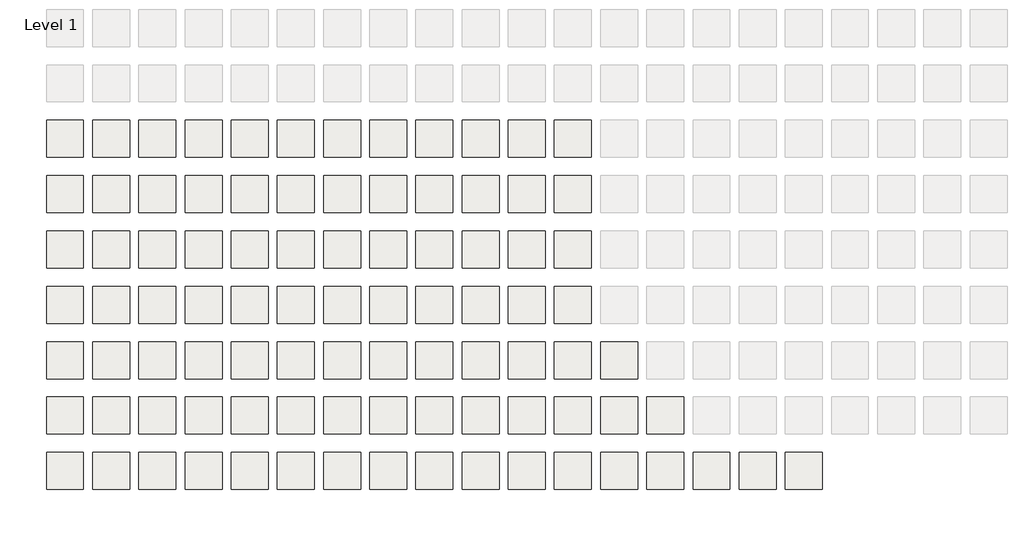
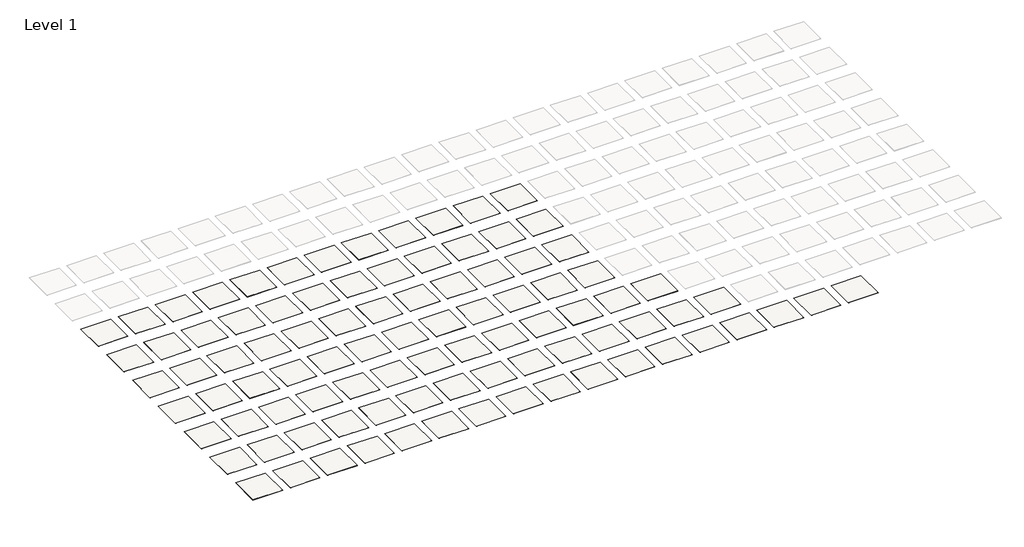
# One storey, part 1 of 2: 92 slabs.
"""IFC4 building model written with IfcOpenShell, lengths in millimetres."""

from ifc_helpers import new_model, si_unit, frame, origin, place, context, project, spatial, polyline, outline, extrude, element, save

model = new_model("IFC4")

# Units and contexts
model_context = context("Model", 3, world=origin())
ifc_project = project(units=[si_unit("LENGTHUNIT", "METRE", prefix="MILLI")], contexts=[model_context])

# Site, building, storey
site = spatial("IfcSite", under=ifc_project)
building = spatial("IfcBuilding", under=site)
storey = spatial("IfcBuildingStorey", under=building, Name="Level 1", Elevation=0.0)

# Slabs
placement = place(None, origin())
element("IfcSlab", 1, ObjectType="Tandus_03164", at=placement, inside=storey, context=model_context, shape_type="SweptSolid", body=[
    extrude(outline(polyline([(-34034.921095, -76739.4599186), (-41350.121095, -76739.4599186), (-41350.121095, -69424.2599186), (-34034.921095, -69424.2599186), (-34034.921095, -76739.4599186)])), frame((0.0, 0.0, -6.35), z_axis=(0.0, 0.0, 1.0), x_axis=(1.0, 0.0, 0.0)), (0.0, 0.0, 1.0), 6.35),
])
element("IfcSlab", 2, ObjectType="Tandus_01433", at=placement, inside=storey, context=model_context, shape_type="SweptSolid", body=[
    extrude(outline(polyline([(-24890.921095, -76739.4599186), (-32206.121095, -76739.4599186), (-32206.121095, -69424.2599186), (-24890.921095, -69424.2599186), (-24890.921095, -76739.4599186)])), frame((0.0, 0.0, -6.35), z_axis=(0.0, 0.0, 1.0), x_axis=(1.0, 0.0, 0.0)), (0.0, 0.0, 1.0), 6.35),
])
element("IfcSlab", 3, ObjectType="Tandus_03889", at=placement, inside=storey, context=model_context, shape_type="SweptSolid", body=[
    extrude(outline(polyline([(-15746.921095, -76739.4599186), (-23062.121095, -76739.4599186), (-23062.121095, -69424.2599186), (-15746.921095, -69424.2599186), (-15746.921095, -76739.4599186)])), frame((0.0, 0.0, -6.35), z_axis=(0.0, 0.0, 1.0), x_axis=(1.0, 0.0, 0.0)), (0.0, 0.0, 1.0), 6.35),
])
element("IfcSlab", 4, ObjectType="Tandus_03937", at=placement, inside=storey, context=model_context, shape_type="SweptSolid", body=[
    extrude(outline(polyline([(66549.078905, -65766.6599186), (59233.878905, -65766.6599186), (59233.878905, -58451.4599186), (66549.078905, -58451.4599186), (66549.078905, -65766.6599186)])), frame((0.0, 0.0, -6.35), z_axis=(0.0, 0.0, 1.0), x_axis=(1.0, 0.0, 0.0)), (0.0, 0.0, 1.0), 6.35),
])
element("IfcSlab", 5, ObjectType="Tandus_04313", at=placement, inside=storey, context=model_context, shape_type="SweptSolid", body=[
    extrude(outline(polyline([(-34034.921095, -10902.6599186), (-41350.121095, -10902.6599186), (-41350.121095, -3587.4599186), (-34034.921095, -3587.4599186), (-34034.921095, -10902.6599186)])), frame((0.0, 0.0, -6.35), z_axis=(0.0, 0.0, 1.0), x_axis=(1.0, 0.0, 0.0)), (0.0, 0.0, 1.0), 6.35),
])
element("IfcSlab", 6, ObjectType="Tandus_05849", at=placement, inside=storey, context=model_context, shape_type="SweptSolid", body=[
    extrude(outline(polyline([(-24890.921095, -10902.6599186), (-32206.121095, -10902.6599186), (-32206.121095, -3587.4599186), (-24890.921095, -3587.4599186), (-24890.921095, -10902.6599186)])), frame((0.0, 0.0, -6.35), z_axis=(0.0, 0.0, 1.0), x_axis=(1.0, 0.0, 0.0)), (0.0, 0.0, 1.0), 6.35),
])
element("IfcSlab", 7, ObjectType="Tandus_04122", at=placement, inside=storey, context=model_context, shape_type="SweptSolid", body=[
    extrude(outline(polyline([(-15746.921095, -10902.6599186), (-23062.121095, -10902.6599186), (-23062.121095, -3587.4599186), (-15746.921095, -3587.4599186), (-15746.921095, -10902.6599186)])), frame((0.0, 0.0, -6.35), z_axis=(0.0, 0.0, 1.0), x_axis=(1.0, 0.0, 0.0)), (0.0, 0.0, 1.0), 6.35),
])
element("IfcSlab", 8, ObjectType="Tandus_04051", at=placement, inside=storey, context=model_context, shape_type="SweptSolid", body=[
    extrude(outline(polyline([(-6602.921095, -10902.6599186), (-13918.121095, -10902.6599186), (-13918.121095, -3587.4599186), (-6602.921095, -3587.4599186), (-6602.921095, -10902.6599186)])), frame((0.0, 0.0, -6.35), z_axis=(0.0, 0.0, 1.0), x_axis=(1.0, 0.0, 0.0)), (0.0, 0.0, 1.0), 6.35),
])
element("IfcSlab", 9, ObjectType="Tandus_04334", at=placement, inside=storey, context=model_context, shape_type="SweptSolid", body=[
    extrude(outline(polyline([(11685.078905, -10902.6599186), (4369.878905, -10902.6599186), (4369.878905, -3587.4599186), (11685.078905, -3587.4599186), (11685.078905, -10902.6599186)])), frame((0.0, 0.0, -6.35), z_axis=(0.0, 0.0, 1.0), x_axis=(1.0, 0.0, 0.0)), (0.0, 0.0, 1.0), 6.35),
])
element("IfcSlab", 10, ObjectType="Tandus_04078", at=placement, inside=storey, context=model_context, shape_type="SweptSolid", body=[
    extrude(outline(polyline([(20829.078905, -10902.6599186), (13513.878905, -10902.6599186), (13513.878905, -3587.4599186), (20829.078905, -3587.4599186), (20829.078905, -10902.6599186)])), frame((0.0, 0.0, -6.35), z_axis=(0.0, 0.0, 1.0), x_axis=(1.0, 0.0, 0.0)), (0.0, 0.0, 1.0), 6.35),
])
element("IfcSlab", 11, ObjectType="Tandus_03297", at=placement, inside=storey, context=model_context, shape_type="SweptSolid", body=[
    extrude(outline(polyline([(29973.078905, -10902.6599186), (22657.878905, -10902.6599186), (22657.878905, -3587.4599186), (29973.078905, -3587.4599186), (29973.078905, -10902.6599186)])), frame((0.0, 0.0, -6.35), z_axis=(0.0, 0.0, 1.0), x_axis=(1.0, 0.0, 0.0)), (0.0, 0.0, 1.0), 6.35),
])
element("IfcSlab", 12, ObjectType="Tandus_04072", at=placement, inside=storey, context=model_context, shape_type="SweptSolid", body=[
    extrude(outline(polyline([(39117.078905, -10902.6599186), (31801.878905, -10902.6599186), (31801.878905, -3587.4599186), (39117.078905, -3587.4599186), (39117.078905, -10902.6599186)])), frame((0.0, 0.0, -6.35), z_axis=(0.0, 0.0, 1.0), x_axis=(1.0, 0.0, 0.0)), (0.0, 0.0, 1.0), 6.35),
])
element("IfcSlab", 13, ObjectType="Tandus_03223", at=placement, inside=storey, context=model_context, shape_type="SweptSolid", body=[
    extrude(outline(polyline([(48261.078905, -10902.6599186), (40945.878905, -10902.6599186), (40945.878905, -3587.4599186), (48261.078905, -3587.4599186), (48261.078905, -10902.6599186)])), frame((0.0, 0.0, -6.35), z_axis=(0.0, 0.0, 1.0), x_axis=(1.0, 0.0, 0.0)), (0.0, 0.0, 1.0), 6.35),
])
element("IfcSlab", 14, ObjectType="Tandus_04222", at=placement, inside=storey, context=model_context, shape_type="SweptSolid", body=[
    extrude(outline(polyline([(57405.078905, -10902.6599186), (50089.878905, -10902.6599186), (50089.878905, -3587.4599186), (57405.078905, -3587.4599186), (57405.078905, -10902.6599186)])), frame((0.0, 0.0, -6.35), z_axis=(0.0, 0.0, 1.0), x_axis=(1.0, 0.0, 0.0)), (0.0, 0.0, 1.0), 6.35),
])
element("IfcSlab", 15, ObjectType="Tandus_05112", at=placement, inside=storey, context=model_context, shape_type="SweptSolid", body=[
    extrude(outline(polyline([(-34034.921095, -21875.4599186), (-41350.121095, -21875.4599186), (-41350.121095, -14560.2599186), (-34034.921095, -14560.2599186), (-34034.921095, -21875.4599186)])), frame((0.0, 0.0, -6.35), z_axis=(0.0, 0.0, 1.0), x_axis=(1.0, 0.0, 0.0)), (0.0, 0.0, 1.0), 6.35),
])
element("IfcSlab", 16, ObjectType="Tandus_03670", at=placement, inside=storey, context=model_context, shape_type="SweptSolid", body=[
    extrude(outline(polyline([(-24890.921095, -21875.4599186), (-32206.121095, -21875.4599186), (-32206.121095, -14560.2599186), (-24890.921095, -14560.2599186), (-24890.921095, -21875.4599186)])), frame((0.0, 0.0, -6.35), z_axis=(0.0, 0.0, 1.0), x_axis=(1.0, 0.0, 0.0)), (0.0, 0.0, 1.0), 6.35),
])
element("IfcSlab", 17, ObjectType="Tandus_03713", at=placement, inside=storey, context=model_context, shape_type="SweptSolid", body=[
    extrude(outline(polyline([(-15746.921095, -21875.4599186), (-23062.121095, -21875.4599186), (-23062.121095, -14560.2599186), (-15746.921095, -14560.2599186), (-15746.921095, -21875.4599186)])), frame((0.0, 0.0, -6.35), z_axis=(0.0, 0.0, 1.0), x_axis=(1.0, 0.0, 0.0)), (0.0, 0.0, 1.0), 6.35),
])
element("IfcSlab", 18, ObjectType="Tandus_04085", at=placement, inside=storey, context=model_context, shape_type="SweptSolid", body=[
    extrude(outline(polyline([(-6602.921095, -21875.4599186), (-13918.121095, -21875.4599186), (-13918.121095, -14560.2599186), (-6602.921095, -14560.2599186), (-6602.921095, -21875.4599186)])), frame((0.0, 0.0, -6.35), z_axis=(0.0, 0.0, 1.0), x_axis=(1.0, 0.0, 0.0)), (0.0, 0.0, 1.0), 6.35),
])
element("IfcSlab", 19, ObjectType="Tandus_03589", at=placement, inside=storey, context=model_context, shape_type="SweptSolid", body=[
    extrude(outline(polyline([(2541.078905, -21875.4599186), (-4774.121095, -21875.4599186), (-4774.121095, -14560.2599186), (2541.078905, -14560.2599186), (2541.078905, -21875.4599186)])), frame((0.0, 0.0, -6.35), z_axis=(0.0, 0.0, 1.0), x_axis=(1.0, 0.0, 0.0)), (0.0, 0.0, 1.0), 6.35),
])
element("IfcSlab", 20, ObjectType="Tandus_03936", at=placement, inside=storey, context=model_context, shape_type="SweptSolid", body=[
    extrude(outline(polyline([(11685.078905, -21875.4599186), (4369.878905, -21875.4599186), (4369.878905, -14560.2599186), (11685.078905, -14560.2599186), (11685.078905, -21875.4599186)])), frame((0.0, 0.0, -6.35), z_axis=(0.0, 0.0, 1.0), x_axis=(1.0, 0.0, 0.0)), (0.0, 0.0, 1.0), 6.35),
])
element("IfcSlab", 21, ObjectType="Tandus_04219", at=placement, inside=storey, context=model_context, shape_type="SweptSolid", body=[
    extrude(outline(polyline([(20829.078905, -21875.4599186), (13513.878905, -21875.4599186), (13513.878905, -14560.2599186), (20829.078905, -14560.2599186), (20829.078905, -21875.4599186)])), frame((0.0, 0.0, -6.35), z_axis=(0.0, 0.0, 1.0), x_axis=(1.0, 0.0, 0.0)), (0.0, 0.0, 1.0), 6.35),
])
element("IfcSlab", 22, ObjectType="Tandus_03295", at=placement, inside=storey, context=model_context, shape_type="SweptSolid", body=[
    extrude(outline(polyline([(29973.078905, -21875.4599186), (22657.878905, -21875.4599186), (22657.878905, -14560.2599186), (29973.078905, -14560.2599186), (29973.078905, -21875.4599186)])), frame((0.0, 0.0, -6.35), z_axis=(0.0, 0.0, 1.0), x_axis=(1.0, 0.0, 0.0)), (0.0, 0.0, 1.0), 6.35),
])
element("IfcSlab", 23, ObjectType="Tandus_05165", at=placement, inside=storey, context=model_context, shape_type="SweptSolid", body=[
    extrude(outline(polyline([(39117.078905, -21875.4599186), (31801.878905, -21875.4599186), (31801.878905, -14560.2599186), (39117.078905, -14560.2599186), (39117.078905, -21875.4599186)])), frame((0.0, 0.0, -6.35), z_axis=(0.0, 0.0, 1.0), x_axis=(1.0, 0.0, 0.0)), (0.0, 0.0, 1.0), 6.35),
])
element("IfcSlab", 24, ObjectType="Tandus_02888", at=placement, inside=storey, context=model_context, shape_type="SweptSolid", body=[
    extrude(outline(polyline([(48261.078905, -21875.4599186), (40945.878905, -21875.4599186), (40945.878905, -14560.2599186), (48261.078905, -14560.2599186), (48261.078905, -21875.4599186)])), frame((0.0, 0.0, -6.35), z_axis=(0.0, 0.0, 1.0), x_axis=(1.0, 0.0, 0.0)), (0.0, 0.0, 1.0), 6.35),
])
element("IfcSlab", 25, ObjectType="Tandus_03707", at=placement, inside=storey, context=model_context, shape_type="SweptSolid", body=[
    extrude(outline(polyline([(57405.078905, -21875.4599186), (50089.878905, -21875.4599186), (50089.878905, -14560.2599186), (57405.078905, -14560.2599186), (57405.078905, -21875.4599186)])), frame((0.0, 0.0, -6.35), z_axis=(0.0, 0.0, 1.0), x_axis=(1.0, 0.0, 0.0)), (0.0, 0.0, 1.0), 6.35),
])
element("IfcSlab", 26, ObjectType="Tandus_04338", at=placement, inside=storey, context=model_context, shape_type="SweptSolid", body=[
    extrude(outline(polyline([(66549.078905, -21875.4599186), (59233.878905, -21875.4599186), (59233.878905, -14560.2599186), (66549.078905, -14560.2599186), (66549.078905, -21875.4599186)])), frame((0.0, 0.0, -6.35), z_axis=(0.0, 0.0, 1.0), x_axis=(1.0, 0.0, 0.0)), (0.0, 0.0, 1.0), 6.35),
])
element("IfcSlab", 27, ObjectType="Tandus_03580", at=placement, inside=storey, context=model_context, shape_type="SweptSolid", body=[
    extrude(outline(polyline([(-34034.921095, -32848.2599186), (-41350.121095, -32848.2599186), (-41350.121095, -25533.0599186), (-34034.921095, -25533.0599186), (-34034.921095, -32848.2599186)])), frame((0.0, 0.0, -6.35), z_axis=(0.0, 0.0, 1.0), x_axis=(1.0, 0.0, 0.0)), (0.0, 0.0, 1.0), 6.35),
])
element("IfcSlab", 28, ObjectType="Tandus_03353", at=placement, inside=storey, context=model_context, shape_type="SweptSolid", body=[
    extrude(outline(polyline([(-24890.921095, -32848.2599186), (-32206.121095, -32848.2599186), (-32206.121095, -25533.0599186), (-24890.921095, -25533.0599186), (-24890.921095, -32848.2599186)])), frame((0.0, 0.0, -6.35), z_axis=(0.0, 0.0, 1.0), x_axis=(1.0, 0.0, 0.0)), (0.0, 0.0, 1.0), 6.35),
])
element("IfcSlab", 29, ObjectType="Tandus_01880", at=placement, inside=storey, context=model_context, shape_type="SweptSolid", body=[
    extrude(outline(polyline([(2541.078905, -10902.6599186), (-4774.121095, -10902.6599186), (-4774.121095, -3587.4599186), (2541.078905, -3587.4599186), (2541.078905, -10902.6599186)])), frame((0.0, 0.0, -6.35), z_axis=(0.0, 0.0, 1.0), x_axis=(1.0, 0.0, 0.0)), (0.0, 0.0, 1.0), 6.35),
])
element("IfcSlab", 30, ObjectType="Tandus_02723", at=placement, inside=storey, context=model_context, shape_type="SweptSolid", body=[
    extrude(outline(polyline([(66549.078905, -10902.6599186), (59233.878905, -10902.6599186), (59233.878905, -3587.4599186), (66549.078905, -3587.4599186), (66549.078905, -10902.6599186)])), frame((0.0, 0.0, -6.35), z_axis=(0.0, 0.0, 1.0), x_axis=(1.0, 0.0, 0.0)), (0.0, 0.0, 1.0), 6.35),
])
element("IfcSlab", 31, ObjectType="Tandus_51050", at=placement, inside=storey, context=model_context, shape_type="SweptSolid", body=[
    extrude(outline(polyline([(-15746.921095, -32848.2599186), (-23062.121095, -32848.2599186), (-23062.121095, -25533.0599186), (-15746.921095, -25533.0599186), (-15746.921095, -32848.2599186)])), frame((0.0, 0.0, -6.35), z_axis=(0.0, 0.0, 1.0), x_axis=(1.0, 0.0, 0.0)), (0.0, 0.0, 1.0), 6.35),
])
element("IfcSlab", 32, ObjectType="Tandus_60124", at=placement, inside=storey, context=model_context, shape_type="SweptSolid", body=[
    extrude(outline(polyline([(-6602.921095, -32848.2599186), (-13918.121095, -32848.2599186), (-13918.121095, -25533.0599186), (-6602.921095, -25533.0599186), (-6602.921095, -32848.2599186)])), frame((0.0, 0.0, -6.35), z_axis=(0.0, 0.0, 1.0), x_axis=(1.0, 0.0, 0.0)), (0.0, 0.0, 1.0), 6.35),
])
element("IfcSlab", 33, ObjectType="Tandus_30397", at=placement, inside=storey, context=model_context, shape_type="SweptSolid", body=[
    extrude(outline(polyline([(2541.078905, -32848.2599186), (-4774.121095, -32848.2599186), (-4774.121095, -25533.0599186), (2541.078905, -25533.0599186), (2541.078905, -32848.2599186)])), frame((0.0, 0.0, -6.35), z_axis=(0.0, 0.0, 1.0), x_axis=(1.0, 0.0, 0.0)), (0.0, 0.0, 1.0), 6.35),
])
element("IfcSlab", 34, ObjectType="Tandus_40024", at=placement, inside=storey, context=model_context, shape_type="SweptSolid", body=[
    extrude(outline(polyline([(11685.078905, -32848.2599186), (4369.878905, -32848.2599186), (4369.878905, -25533.0599186), (11685.078905, -25533.0599186), (11685.078905, -32848.2599186)])), frame((0.0, 0.0, -6.35), z_axis=(0.0, 0.0, 1.0), x_axis=(1.0, 0.0, 0.0)), (0.0, 0.0, 1.0), 6.35),
])
element("IfcSlab", 35, ObjectType="Tandus_40030", at=placement, inside=storey, context=model_context, shape_type="SweptSolid", body=[
    extrude(outline(polyline([(20829.078905, -32848.2599186), (13513.878905, -32848.2599186), (13513.878905, -25533.0599186), (20829.078905, -25533.0599186), (20829.078905, -32848.2599186)])), frame((0.0, 0.0, -6.35), z_axis=(0.0, 0.0, 1.0), x_axis=(1.0, 0.0, 0.0)), (0.0, 0.0, 1.0), 6.35),
])
element("IfcSlab", 36, ObjectType="Tandus_51080", at=placement, inside=storey, context=model_context, shape_type="SweptSolid", body=[
    extrude(outline(polyline([(29973.078905, -32848.2599186), (22657.878905, -32848.2599186), (22657.878905, -25533.0599186), (29973.078905, -25533.0599186), (29973.078905, -32848.2599186)])), frame((0.0, 0.0, -6.35), z_axis=(0.0, 0.0, 1.0), x_axis=(1.0, 0.0, 0.0)), (0.0, 0.0, 1.0), 6.35),
])
element("IfcSlab", 37, ObjectType="Tandus_60127", at=placement, inside=storey, context=model_context, shape_type="SweptSolid", body=[
    extrude(outline(polyline([(39117.078905, -32848.2599186), (31801.878905, -32848.2599186), (31801.878905, -25533.0599186), (39117.078905, -25533.0599186), (39117.078905, -32848.2599186)])), frame((0.0, 0.0, -6.35), z_axis=(0.0, 0.0, 1.0), x_axis=(1.0, 0.0, 0.0)), (0.0, 0.0, 1.0), 6.35),
])
element("IfcSlab", 38, ObjectType="Tandus_44047", at=placement, inside=storey, context=model_context, shape_type="SweptSolid", body=[
    extrude(outline(polyline([(48261.078905, -32848.2599186), (40945.878905, -32848.2599186), (40945.878905, -25533.0599186), (48261.078905, -25533.0599186), (48261.078905, -32848.2599186)])), frame((0.0, 0.0, -6.35), z_axis=(0.0, 0.0, 1.0), x_axis=(1.0, 0.0, 0.0)), (0.0, 0.0, 1.0), 6.35),
])
element("IfcSlab", 39, ObjectType="Tandus_44045", at=placement, inside=storey, context=model_context, shape_type="SweptSolid", body=[
    extrude(outline(polyline([(57405.078905, -32848.2599186), (50089.878905, -32848.2599186), (50089.878905, -25533.0599186), (57405.078905, -25533.0599186), (57405.078905, -32848.2599186)])), frame((0.0, 0.0, -6.35), z_axis=(0.0, 0.0, 1.0), x_axis=(1.0, 0.0, 0.0)), (0.0, 0.0, 1.0), 6.35),
])
element("IfcSlab", 40, ObjectType="Tandus_30399", at=placement, inside=storey, context=model_context, shape_type="SweptSolid", body=[
    extrude(outline(polyline([(66549.078905, -32848.2599186), (59233.878905, -32848.2599186), (59233.878905, -25533.0599186), (66549.078905, -25533.0599186), (66549.078905, -32848.2599186)])), frame((0.0, 0.0, -6.35), z_axis=(0.0, 0.0, 1.0), x_axis=(1.0, 0.0, 0.0)), (0.0, 0.0, 1.0), 6.35),
])
element("IfcSlab", 41, ObjectType="Tandus_44052", at=placement, inside=storey, context=model_context, shape_type="SweptSolid", body=[
    extrude(outline(polyline([(-34034.921095, -43821.0599186), (-41350.121095, -43821.0599186), (-41350.121095, -36505.8599186), (-34034.921095, -36505.8599186), (-34034.921095, -43821.0599186)])), frame((0.0, 0.0, -6.35), z_axis=(0.0, 0.0, 1.0), x_axis=(1.0, 0.0, 0.0)), (0.0, 0.0, 1.0), 6.35),
])
element("IfcSlab", 42, ObjectType="Tandus_40031", at=placement, inside=storey, context=model_context, shape_type="SweptSolid", body=[
    extrude(outline(polyline([(-24890.921095, -43821.0599186), (-32206.121095, -43821.0599186), (-32206.121095, -36505.8599186), (-24890.921095, -36505.8599186), (-24890.921095, -43821.0599186)])), frame((0.0, 0.0, -6.35), z_axis=(0.0, 0.0, 1.0), x_axis=(1.0, 0.0, 0.0)), (0.0, 0.0, 1.0), 6.35),
])
element("IfcSlab", 43, ObjectType="Tandus_40002", at=placement, inside=storey, context=model_context, shape_type="SweptSolid", body=[
    extrude(outline(polyline([(-15746.921095, -43821.0599186), (-23062.121095, -43821.0599186), (-23062.121095, -36505.8599186), (-15746.921095, -36505.8599186), (-15746.921095, -43821.0599186)])), frame((0.0, 0.0, -6.35), z_axis=(0.0, 0.0, 1.0), x_axis=(1.0, 0.0, 0.0)), (0.0, 0.0, 1.0), 6.35),
])
element("IfcSlab", 44, ObjectType="Tandus_60102", at=placement, inside=storey, context=model_context, shape_type="SweptSolid", body=[
    extrude(outline(polyline([(-6602.921095, -43821.0599186), (-13918.121095, -43821.0599186), (-13918.121095, -36505.8599186), (-6602.921095, -36505.8599186), (-6602.921095, -43821.0599186)])), frame((0.0, 0.0, -6.35), z_axis=(0.0, 0.0, 1.0), x_axis=(1.0, 0.0, 0.0)), (0.0, 0.0, 1.0), 6.35),
])
element("IfcSlab", 45, ObjectType="Tandus_44025", at=placement, inside=storey, context=model_context, shape_type="SweptSolid", body=[
    extrude(outline(polyline([(2541.078905, -43821.0599186), (-4774.121095, -43821.0599186), (-4774.121095, -36505.8599186), (2541.078905, -36505.8599186), (2541.078905, -43821.0599186)])), frame((0.0, 0.0, -6.35), z_axis=(0.0, 0.0, 1.0), x_axis=(1.0, 0.0, 0.0)), (0.0, 0.0, 1.0), 6.35),
])
element("IfcSlab", 46, ObjectType="Tandus_44040", at=placement, inside=storey, context=model_context, shape_type="SweptSolid", body=[
    extrude(outline(polyline([(11685.078905, -43821.0599186), (4369.878905, -43821.0599186), (4369.878905, -36505.8599186), (11685.078905, -36505.8599186), (11685.078905, -43821.0599186)])), frame((0.0, 0.0, -6.35), z_axis=(0.0, 0.0, 1.0), x_axis=(1.0, 0.0, 0.0)), (0.0, 0.0, 1.0), 6.35),
])
element("IfcSlab", 47, ObjectType="Tandus_44051", at=placement, inside=storey, context=model_context, shape_type="SweptSolid", body=[
    extrude(outline(polyline([(20829.078905, -43821.0599186), (13513.878905, -43821.0599186), (13513.878905, -36505.8599186), (20829.078905, -36505.8599186), (20829.078905, -43821.0599186)])), frame((0.0, 0.0, -6.35), z_axis=(0.0, 0.0, 1.0), x_axis=(1.0, 0.0, 0.0)), (0.0, 0.0, 1.0), 6.35),
])
element("IfcSlab", 48, ObjectType="Tandus_44032", at=placement, inside=storey, context=model_context, shape_type="SweptSolid", body=[
    extrude(outline(polyline([(29973.078905, -43821.0599186), (22657.878905, -43821.0599186), (22657.878905, -36505.8599186), (29973.078905, -36505.8599186), (29973.078905, -43821.0599186)])), frame((0.0, 0.0, -6.35), z_axis=(0.0, 0.0, 1.0), x_axis=(1.0, 0.0, 0.0)), (0.0, 0.0, 1.0), 6.35),
])
element("IfcSlab", 49, ObjectType="Tandus_40038", at=placement, inside=storey, context=model_context, shape_type="SweptSolid", body=[
    extrude(outline(polyline([(39117.078905, -43821.0599186), (31801.878905, -43821.0599186), (31801.878905, -36505.8599186), (39117.078905, -36505.8599186), (39117.078905, -43821.0599186)])), frame((0.0, 0.0, -6.35), z_axis=(0.0, 0.0, 1.0), x_axis=(1.0, 0.0, 0.0)), (0.0, 0.0, 1.0), 6.35),
])
element("IfcSlab", 50, ObjectType="Tandus_40022", at=placement, inside=storey, context=model_context, shape_type="SweptSolid", body=[
    extrude(outline(polyline([(48261.078905, -43821.0599186), (40945.878905, -43821.0599186), (40945.878905, -36505.8599186), (48261.078905, -36505.8599186), (48261.078905, -43821.0599186)])), frame((0.0, 0.0, -6.35), z_axis=(0.0, 0.0, 1.0), x_axis=(1.0, 0.0, 0.0)), (0.0, 0.0, 1.0), 6.35),
])
element("IfcSlab", 51, ObjectType="Tandus_44035", at=placement, inside=storey, context=model_context, shape_type="SweptSolid", body=[
    extrude(outline(polyline([(57405.078905, -43821.0599186), (50089.878905, -43821.0599186), (50089.878905, -36505.8599186), (57405.078905, -36505.8599186), (57405.078905, -43821.0599186)])), frame((0.0, 0.0, -6.35), z_axis=(0.0, 0.0, 1.0), x_axis=(1.0, 0.0, 0.0)), (0.0, 0.0, 1.0), 6.35),
])
element("IfcSlab", 52, ObjectType="Tandus_40003", at=placement, inside=storey, context=model_context, shape_type="SweptSolid", body=[
    extrude(outline(polyline([(66549.078905, -43821.0599186), (59233.878905, -43821.0599186), (59233.878905, -36505.8599186), (66549.078905, -36505.8599186), (66549.078905, -43821.0599186)])), frame((0.0, 0.0, -6.35), z_axis=(0.0, 0.0, 1.0), x_axis=(1.0, 0.0, 0.0)), (0.0, 0.0, 1.0), 6.35),
])
element("IfcSlab", 53, ObjectType="Tandus_03588", at=placement, inside=storey, context=model_context, shape_type="SweptSolid", body=[
    extrude(outline(polyline([(-34034.921095, -54793.8599186), (-41350.121095, -54793.8599186), (-41350.121095, -47478.6599186), (-34034.921095, -47478.6599186), (-34034.921095, -54793.8599186)])), frame((0.0, 0.0, -6.35), z_axis=(0.0, 0.0, 1.0), x_axis=(1.0, 0.0, 0.0)), (0.0, 0.0, 1.0), 6.35),
])
element("IfcSlab", 54, ObjectType="Tandus_40027", at=placement, inside=storey, context=model_context, shape_type="SweptSolid", body=[
    extrude(outline(polyline([(-24890.921095, -54793.8599186), (-32206.121095, -54793.8599186), (-32206.121095, -47478.6599186), (-24890.921095, -47478.6599186), (-24890.921095, -54793.8599186)])), frame((0.0, 0.0, -6.35), z_axis=(0.0, 0.0, 1.0), x_axis=(1.0, 0.0, 0.0)), (0.0, 0.0, 1.0), 6.35),
])
element("IfcSlab", 55, ObjectType="Tandus_40020", at=placement, inside=storey, context=model_context, shape_type="SweptSolid", body=[
    extrude(outline(polyline([(-15746.921095, -54793.8599186), (-23062.121095, -54793.8599186), (-23062.121095, -47478.6599186), (-15746.921095, -47478.6599186), (-15746.921095, -54793.8599186)])), frame((0.0, 0.0, -6.35), z_axis=(0.0, 0.0, 1.0), x_axis=(1.0, 0.0, 0.0)), (0.0, 0.0, 1.0), 6.35),
])
element("IfcSlab", 56, ObjectType="Tandus_03500", at=placement, inside=storey, context=model_context, shape_type="SweptSolid", body=[
    extrude(outline(polyline([(-6602.921095, -54793.8599186), (-13918.121095, -54793.8599186), (-13918.121095, -47478.6599186), (-6602.921095, -47478.6599186), (-6602.921095, -54793.8599186)])), frame((0.0, 0.0, -6.35), z_axis=(0.0, 0.0, 1.0), x_axis=(1.0, 0.0, 0.0)), (0.0, 0.0, 1.0), 6.35),
])
element("IfcSlab", 57, ObjectType="Tandus_04316", at=placement, inside=storey, context=model_context, shape_type="SweptSolid", body=[
    extrude(outline(polyline([(2541.078905, -54793.8599186), (-4774.121095, -54793.8599186), (-4774.121095, -47478.6599186), (2541.078905, -47478.6599186), (2541.078905, -54793.8599186)])), frame((0.0, 0.0, -6.35), z_axis=(0.0, 0.0, 1.0), x_axis=(1.0, 0.0, 0.0)), (0.0, 0.0, 1.0), 6.35),
])
element("IfcSlab", 58, ObjectType="Tandus_40039", at=placement, inside=storey, context=model_context, shape_type="SweptSolid", body=[
    extrude(outline(polyline([(11685.078905, -54793.8599186), (4369.878905, -54793.8599186), (4369.878905, -47478.6599186), (11685.078905, -47478.6599186), (11685.078905, -54793.8599186)])), frame((0.0, 0.0, -6.35), z_axis=(0.0, 0.0, 1.0), x_axis=(1.0, 0.0, 0.0)), (0.0, 0.0, 1.0), 6.35),
])
element("IfcSlab", 59, ObjectType="Tandus_44037", at=placement, inside=storey, context=model_context, shape_type="SweptSolid", body=[
    extrude(outline(polyline([(20829.078905, -54793.8599186), (13513.878905, -54793.8599186), (13513.878905, -47478.6599186), (20829.078905, -47478.6599186), (20829.078905, -54793.8599186)])), frame((0.0, 0.0, -6.35), z_axis=(0.0, 0.0, 1.0), x_axis=(1.0, 0.0, 0.0)), (0.0, 0.0, 1.0), 6.35),
])
element("IfcSlab", 60, ObjectType="Tandus_51081", at=placement, inside=storey, context=model_context, shape_type="SweptSolid", body=[
    extrude(outline(polyline([(29973.078905, -54793.8599186), (22657.878905, -54793.8599186), (22657.878905, -47478.6599186), (29973.078905, -47478.6599186), (29973.078905, -54793.8599186)])), frame((0.0, 0.0, -6.35), z_axis=(0.0, 0.0, 1.0), x_axis=(1.0, 0.0, 0.0)), (0.0, 0.0, 1.0), 6.35),
])
element("IfcSlab", 61, ObjectType="Tandus_44060", at=placement, inside=storey, context=model_context, shape_type="SweptSolid", body=[
    extrude(outline(polyline([(39117.078905, -54793.8599186), (31801.878905, -54793.8599186), (31801.878905, -47478.6599186), (39117.078905, -47478.6599186), (39117.078905, -54793.8599186)])), frame((0.0, 0.0, -6.35), z_axis=(0.0, 0.0, 1.0), x_axis=(1.0, 0.0, 0.0)), (0.0, 0.0, 1.0), 6.35),
])
element("IfcSlab", 62, ObjectType="Tandus_48004", at=placement, inside=storey, context=model_context, shape_type="SweptSolid", body=[
    extrude(outline(polyline([(48261.078905, -54793.8599186), (40945.878905, -54793.8599186), (40945.878905, -47478.6599186), (48261.078905, -47478.6599186), (48261.078905, -54793.8599186)])), frame((0.0, 0.0, -6.35), z_axis=(0.0, 0.0, 1.0), x_axis=(1.0, 0.0, 0.0)), (0.0, 0.0, 1.0), 6.35),
])
element("IfcSlab", 63, ObjectType="Tandus_04251", at=placement, inside=storey, context=model_context, shape_type="SweptSolid", body=[
    extrude(outline(polyline([(57405.078905, -54793.8599186), (50089.878905, -54793.8599186), (50089.878905, -47478.6599186), (57405.078905, -47478.6599186), (57405.078905, -54793.8599186)])), frame((0.0, 0.0, -6.35), z_axis=(0.0, 0.0, 1.0), x_axis=(1.0, 0.0, 0.0)), (0.0, 0.0, 1.0), 6.35),
])
element("IfcSlab", 64, ObjectType="Tandus_40034", at=placement, inside=storey, context=model_context, shape_type="SweptSolid", body=[
    extrude(outline(polyline([(66549.078905, -54793.8599186), (59233.878905, -54793.8599186), (59233.878905, -47478.6599186), (66549.078905, -47478.6599186), (66549.078905, -54793.8599186)])), frame((0.0, 0.0, -6.35), z_axis=(0.0, 0.0, 1.0), x_axis=(1.0, 0.0, 0.0)), (0.0, 0.0, 1.0), 6.35),
])
element("IfcSlab", 65, ObjectType="Tandus_60128", at=placement, inside=storey, context=model_context, shape_type="SweptSolid", body=[
    extrude(outline(polyline([(75693.078905, -54793.8599186), (68377.878905, -54793.8599186), (68377.878905, -47478.6599186), (75693.078905, -47478.6599186), (75693.078905, -54793.8599186)])), frame((0.0, 0.0, -6.35), z_axis=(0.0, 0.0, 1.0), x_axis=(1.0, 0.0, 0.0)), (0.0, 0.0, 1.0), 6.35),
])
element("IfcSlab", 66, ObjectType="Tandus_03656", at=placement, inside=storey, context=model_context, shape_type="SweptSolid", body=[
    extrude(outline(polyline([(-34034.921095, -65766.6599186), (-41350.121095, -65766.6599186), (-41350.121095, -58451.4599186), (-34034.921095, -58451.4599186), (-34034.921095, -65766.6599186)])), frame((0.0, 0.0, -6.35), z_axis=(0.0, 0.0, 1.0), x_axis=(1.0, 0.0, 0.0)), (0.0, 0.0, 1.0), 6.35),
])
element("IfcSlab", 67, ObjectType="Tandus_04332", at=placement, inside=storey, context=model_context, shape_type="SweptSolid", body=[
    extrude(outline(polyline([(-24890.921095, -65766.6599186), (-32206.121095, -65766.6599186), (-32206.121095, -58451.4599186), (-24890.921095, -58451.4599186), (-24890.921095, -65766.6599186)])), frame((0.0, 0.0, -6.35), z_axis=(0.0, 0.0, 1.0), x_axis=(1.0, 0.0, 0.0)), (0.0, 0.0, 1.0), 6.35),
])
element("IfcSlab", 68, ObjectType="Tandus_44003", at=placement, inside=storey, context=model_context, shape_type="SweptSolid", body=[
    extrude(outline(polyline([(-15746.921095, -65766.6599186), (-23062.121095, -65766.6599186), (-23062.121095, -58451.4599186), (-15746.921095, -58451.4599186), (-15746.921095, -65766.6599186)])), frame((0.0, 0.0, -6.35), z_axis=(0.0, 0.0, 1.0), x_axis=(1.0, 0.0, 0.0)), (0.0, 0.0, 1.0), 6.35),
])
element("IfcSlab", 69, ObjectType="Tandus_03973", at=placement, inside=storey, context=model_context, shape_type="SweptSolid", body=[
    extrude(outline(polyline([(-6602.921095, -65766.6599186), (-13918.121095, -65766.6599186), (-13918.121095, -58451.4599186), (-6602.921095, -58451.4599186), (-6602.921095, -65766.6599186)])), frame((0.0, 0.0, -6.35), z_axis=(0.0, 0.0, 1.0), x_axis=(1.0, 0.0, 0.0)), (0.0, 0.0, 1.0), 6.35),
])
element("IfcSlab", 70, ObjectType="Tandus_44023", at=placement, inside=storey, context=model_context, shape_type="SweptSolid", body=[
    extrude(outline(polyline([(2541.078905, -65766.6599186), (-4774.121095, -65766.6599186), (-4774.121095, -58451.4599186), (2541.078905, -58451.4599186), (2541.078905, -65766.6599186)])), frame((0.0, 0.0, -6.35), z_axis=(0.0, 0.0, 1.0), x_axis=(1.0, 0.0, 0.0)), (0.0, 0.0, 1.0), 6.35),
])
element("IfcSlab", 71, ObjectType="Tandus_44043", at=placement, inside=storey, context=model_context, shape_type="SweptSolid", body=[
    extrude(outline(polyline([(11685.078905, -65766.6599186), (4369.878905, -65766.6599186), (4369.878905, -58451.4599186), (11685.078905, -58451.4599186), (11685.078905, -65766.6599186)])), frame((0.0, 0.0, -6.35), z_axis=(0.0, 0.0, 1.0), x_axis=(1.0, 0.0, 0.0)), (0.0, 0.0, 1.0), 6.35),
])
element("IfcSlab", 72, ObjectType="Tandus_56071", at=placement, inside=storey, context=model_context, shape_type="SweptSolid", body=[
    extrude(outline(polyline([(20829.078905, -65766.6599186), (13513.878905, -65766.6599186), (13513.878905, -58451.4599186), (20829.078905, -58451.4599186), (20829.078905, -65766.6599186)])), frame((0.0, 0.0, -6.35), z_axis=(0.0, 0.0, 1.0), x_axis=(1.0, 0.0, 0.0)), (0.0, 0.0, 1.0), 6.35),
])
element("IfcSlab", 73, ObjectType="Tandus_04120", at=placement, inside=storey, context=model_context, shape_type="SweptSolid", body=[
    extrude(outline(polyline([(29973.078905, -65766.6599186), (22657.878905, -65766.6599186), (22657.878905, -58451.4599186), (29973.078905, -58451.4599186), (29973.078905, -65766.6599186)])), frame((0.0, 0.0, -6.35), z_axis=(0.0, 0.0, 1.0), x_axis=(1.0, 0.0, 0.0)), (0.0, 0.0, 1.0), 6.35),
])
element("IfcSlab", 74, ObjectType="Tandus_04165", at=placement, inside=storey, context=model_context, shape_type="SweptSolid", body=[
    extrude(outline(polyline([(39117.078905, -65766.6599186), (31801.878905, -65766.6599186), (31801.878905, -58451.4599186), (39117.078905, -58451.4599186), (39117.078905, -65766.6599186)])), frame((0.0, 0.0, -6.35), z_axis=(0.0, 0.0, 1.0), x_axis=(1.0, 0.0, 0.0)), (0.0, 0.0, 1.0), 6.35),
])
element("IfcSlab", 75, ObjectType="Tandus_44053", at=placement, inside=storey, context=model_context, shape_type="SweptSolid", body=[
    extrude(outline(polyline([(48261.078905, -65766.6599186), (40945.878905, -65766.6599186), (40945.878905, -58451.4599186), (48261.078905, -58451.4599186), (48261.078905, -65766.6599186)])), frame((0.0, 0.0, -6.35), z_axis=(0.0, 0.0, 1.0), x_axis=(1.0, 0.0, 0.0)), (0.0, 0.0, 1.0), 6.35),
])
element("IfcSlab", 76, ObjectType="Tandus_03913", at=placement, inside=storey, context=model_context, shape_type="SweptSolid", body=[
    extrude(outline(polyline([(57405.078905, -65766.6599186), (50089.878905, -65766.6599186), (50089.878905, -58451.4599186), (57405.078905, -58451.4599186), (57405.078905, -65766.6599186)])), frame((0.0, 0.0, -6.35), z_axis=(0.0, 0.0, 1.0), x_axis=(1.0, 0.0, 0.0)), (0.0, 0.0, 1.0), 6.35),
])
element("IfcSlab", 77, ObjectType="Tandus_40032", at=placement, inside=storey, context=model_context, shape_type="SweptSolid", body=[
    extrude(outline(polyline([(75693.078905, -65766.6599186), (68377.878905, -65766.6599186), (68377.878905, -58451.4599186), (75693.078905, -58451.4599186), (75693.078905, -65766.6599186)])), frame((0.0, 0.0, -6.35), z_axis=(0.0, 0.0, 1.0), x_axis=(1.0, 0.0, 0.0)), (0.0, 0.0, 1.0), 6.35),
])
element("IfcSlab", 78, ObjectType="Tandus_52042", at=placement, inside=storey, context=model_context, shape_type="SweptSolid", body=[
    extrude(outline(polyline([(84837.078905, -65766.6599186), (77521.878905, -65766.6599186), (77521.878905, -58451.4599186), (84837.078905, -58451.4599186), (84837.078905, -65766.6599186)])), frame((0.0, 0.0, -6.35), z_axis=(0.0, 0.0, 1.0), x_axis=(1.0, 0.0, 0.0)), (0.0, 0.0, 1.0), 6.35),
])
element("IfcSlab", 79, ObjectType="Tandus_44054", at=placement, inside=storey, context=model_context, shape_type="SweptSolid", body=[
    extrude(outline(polyline([(-6602.921095, -76739.4599186), (-13918.121095, -76739.4599186), (-13918.121095, -69424.2599186), (-6602.921095, -69424.2599186), (-6602.921095, -76739.4599186)])), frame((0.0, 0.0, -6.35), z_axis=(0.0, 0.0, 1.0), x_axis=(1.0, 0.0, 0.0)), (0.0, 0.0, 1.0), 6.35),
])
element("IfcSlab", 80, ObjectType="Tandus_44059", at=placement, inside=storey, context=model_context, shape_type="SweptSolid", body=[
    extrude(outline(polyline([(2541.078905, -76739.4599186), (-4774.121095, -76739.4599186), (-4774.121095, -69424.2599186), (2541.078905, -69424.2599186), (2541.078905, -76739.4599186)])), frame((0.0, 0.0, -6.35), z_axis=(0.0, 0.0, 1.0), x_axis=(1.0, 0.0, 0.0)), (0.0, 0.0, 1.0), 6.35),
])
element("IfcSlab", 81, ObjectType="Tandus_03863", at=placement, inside=storey, context=model_context, shape_type="SweptSolid", body=[
    extrude(outline(polyline([(11685.078905, -76739.4599186), (4369.878905, -76739.4599186), (4369.878905, -69424.2599186), (11685.078905, -69424.2599186), (11685.078905, -76739.4599186)])), frame((0.0, 0.0, -6.35), z_axis=(0.0, 0.0, 1.0), x_axis=(1.0, 0.0, 0.0)), (0.0, 0.0, 1.0), 6.35),
])
element("IfcSlab", 82, ObjectType="Tandus_03990", at=placement, inside=storey, context=model_context, shape_type="SweptSolid", body=[
    extrude(outline(polyline([(20829.078905, -76739.4599186), (13513.878905, -76739.4599186), (13513.878905, -69424.2599186), (20829.078905, -69424.2599186), (20829.078905, -76739.4599186)])), frame((0.0, 0.0, -6.35), z_axis=(0.0, 0.0, 1.0), x_axis=(1.0, 0.0, 0.0)), (0.0, 0.0, 1.0), 6.35),
])
element("IfcSlab", 83, ObjectType="Tandus_04074", at=placement, inside=storey, context=model_context, shape_type="SweptSolid", body=[
    extrude(outline(polyline([(29973.078905, -76739.4599186), (22657.878905, -76739.4599186), (22657.878905, -69424.2599186), (29973.078905, -69424.2599186), (29973.078905, -76739.4599186)])), frame((0.0, 0.0, -6.35), z_axis=(0.0, 0.0, 1.0), x_axis=(1.0, 0.0, 0.0)), (0.0, 0.0, 1.0), 6.35),
])
element("IfcSlab", 84, ObjectType="Tandus_04089", at=placement, inside=storey, context=model_context, shape_type="SweptSolid", body=[
    extrude(outline(polyline([(39117.078905, -76739.4599186), (31801.878905, -76739.4599186), (31801.878905, -69424.2599186), (39117.078905, -69424.2599186), (39117.078905, -76739.4599186)])), frame((0.0, 0.0, -6.35), z_axis=(0.0, 0.0, 1.0), x_axis=(1.0, 0.0, 0.0)), (0.0, 0.0, 1.0), 6.35),
])
element("IfcSlab", 85, ObjectType="Tandus_04090", at=placement, inside=storey, context=model_context, shape_type="SweptSolid", body=[
    extrude(outline(polyline([(48261.078905, -76739.4599186), (40945.878905, -76739.4599186), (40945.878905, -69424.2599186), (48261.078905, -69424.2599186), (48261.078905, -76739.4599186)])), frame((0.0, 0.0, -6.35), z_axis=(0.0, 0.0, 1.0), x_axis=(1.0, 0.0, 0.0)), (0.0, 0.0, 1.0), 6.35),
])
element("IfcSlab", 86, ObjectType="Tandus_04164", at=placement, inside=storey, context=model_context, shape_type="SweptSolid", body=[
    extrude(outline(polyline([(57405.078905, -76739.4599186), (50089.878905, -76739.4599186), (50089.878905, -69424.2599186), (57405.078905, -69424.2599186), (57405.078905, -76739.4599186)])), frame((0.0, 0.0, -6.35), z_axis=(0.0, 0.0, 1.0), x_axis=(1.0, 0.0, 0.0)), (0.0, 0.0, 1.0), 6.35),
])
element("IfcSlab", 87, ObjectType="Tandus_04318", at=placement, inside=storey, context=model_context, shape_type="SweptSolid", body=[
    extrude(outline(polyline([(66549.078905, -76739.4599186), (59233.878905, -76739.4599186), (59233.878905, -69424.2599186), (66549.078905, -69424.2599186), (66549.078905, -76739.4599186)])), frame((0.0, 0.0, -6.35), z_axis=(0.0, 0.0, 1.0), x_axis=(1.0, 0.0, 0.0)), (0.0, 0.0, 1.0), 6.35),
])
element("IfcSlab", 88, ObjectType="Tandus_40021", at=placement, inside=storey, context=model_context, shape_type="SweptSolid", body=[
    extrude(outline(polyline([(75693.078905, -76739.4599186), (68377.878905, -76739.4599186), (68377.878905, -69424.2599186), (75693.078905, -69424.2599186), (75693.078905, -76739.4599186)])), frame((0.0, 0.0, -6.35), z_axis=(0.0, 0.0, 1.0), x_axis=(1.0, 0.0, 0.0)), (0.0, 0.0, 1.0), 6.35),
])
element("IfcSlab", 89, ObjectType="Tandus_40036", at=placement, inside=storey, context=model_context, shape_type="SweptSolid", body=[
    extrude(outline(polyline([(84837.078905, -76739.4599186), (77521.878905, -76739.4599186), (77521.878905, -69424.2599186), (84837.078905, -69424.2599186), (84837.078905, -76739.4599186)])), frame((0.0, 0.0, -6.35), z_axis=(0.0, 0.0, 1.0), x_axis=(1.0, 0.0, 0.0)), (0.0, 0.0, 1.0), 6.35),
])
element("IfcSlab", 90, ObjectType="Tandus_44004", at=placement, inside=storey, context=model_context, shape_type="SweptSolid", body=[
    extrude(outline(polyline([(93981.078905, -76739.4599186), (86665.878905, -76739.4599186), (86665.878905, -69424.2599186), (93981.078905, -69424.2599186), (93981.078905, -76739.4599186)])), frame((0.0, 0.0, -6.35), z_axis=(0.0, 0.0, 1.0), x_axis=(1.0, 0.0, 0.0)), (0.0, 0.0, 1.0), 6.35),
])
element("IfcSlab", 91, ObjectType="Tandus_44048", at=placement, inside=storey, context=model_context, shape_type="SweptSolid", body=[
    extrude(outline(polyline([(103125.078905, -76739.4599186), (95809.878905, -76739.4599186), (95809.878905, -69424.2599186), (103125.078905, -69424.2599186), (103125.078905, -76739.4599186)])), frame((0.0, 0.0, -6.35), z_axis=(0.0, 0.0, 1.0), x_axis=(1.0, 0.0, 0.0)), (0.0, 0.0, 1.0), 6.35),
])
element("IfcSlab", 92, ObjectType="Tandus_03550", at=placement, inside=storey, context=model_context, shape_type="SweptSolid", body=[
    extrude(outline(polyline([(112269.078905, -76739.4599186), (104953.878905, -76739.4599186), (104953.878905, -69424.2599186), (112269.078905, -69424.2599186), (112269.078905, -76739.4599186)])), frame((0.0, 0.0, -6.35), z_axis=(0.0, 0.0, 1.0), x_axis=(1.0, 0.0, 0.0)), (0.0, 0.0, 1.0), 6.35),
])

save(model, "model.ifc")
